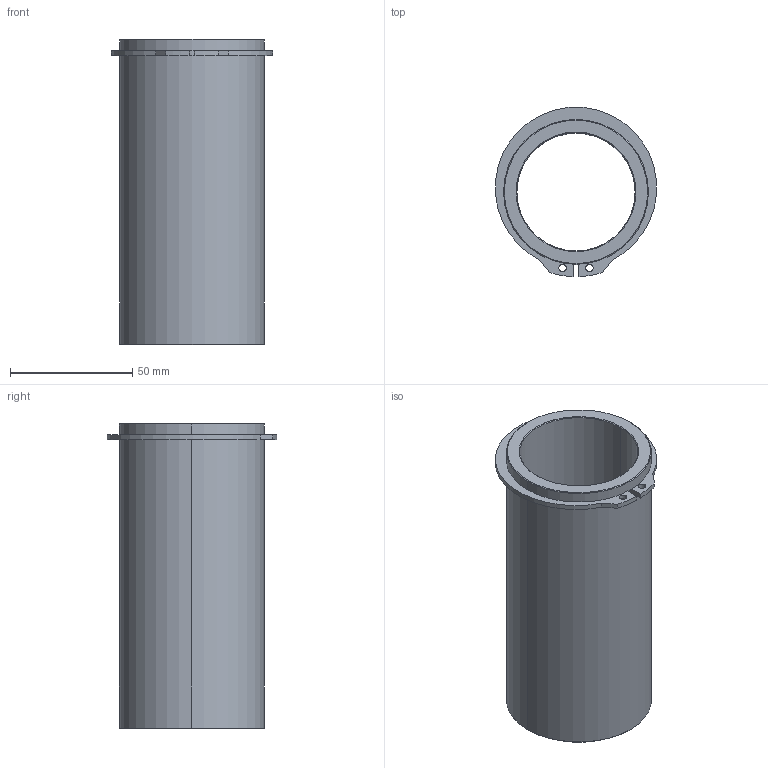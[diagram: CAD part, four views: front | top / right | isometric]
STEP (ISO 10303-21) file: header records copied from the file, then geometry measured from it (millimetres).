
FILE_DESCRIPTION((''),'2;1');
FILE_NAME('C13_048_125.stp','2008-12-17T16:08:45',(''),(''),'Mechanical Desktop 2009','Mechanical Desktop 2009',', , ');
FILE_SCHEMA(('CONFIG_CONTROL_DESIGN'));
Length unit declared in the file: millimetre
Products named in the file (2): Product; blmdl1
Assembly tree (1 placements, depth 2):
  Product
    blmdl1
Bounding box: 65.91 x 69.23 x 125 mm (x, y, z)
Volume: 116536.1 mm3; surface area: 47119.1 mm2
Topology: 2 solids, 2 shells, 34 faces, 76 edges, 48 vertices
Faces by surface type: cylinder 16, plane 10, cone 8
Entity records: 1075 total; most frequent: DIRECTION 188, CARTESIAN_POINT 160, ORIENTED_EDGE 152, AXIS2_PLACEMENT_3D 76, EDGE_CURVE 76, VERTEX_POINT 48, EDGE_LOOP 42, CIRCLE 40
